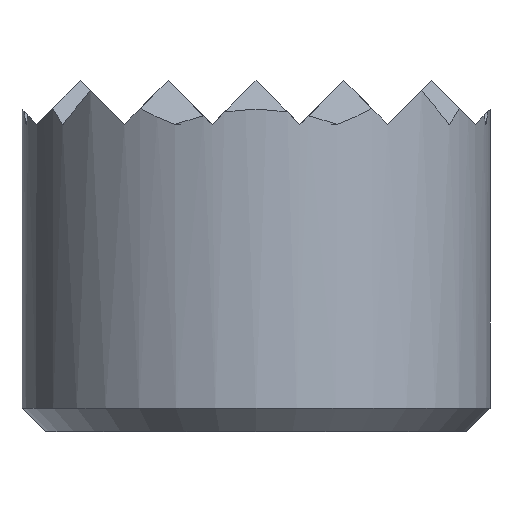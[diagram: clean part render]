
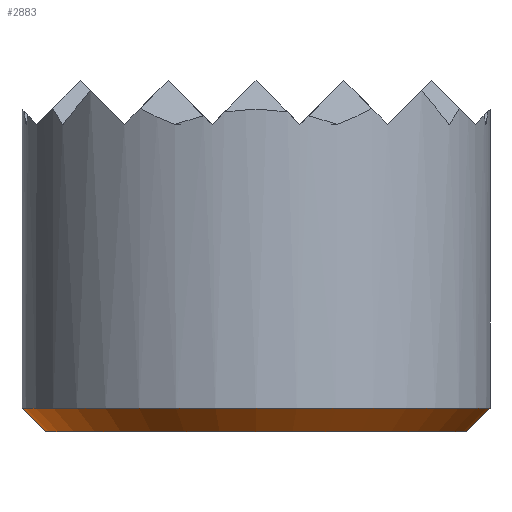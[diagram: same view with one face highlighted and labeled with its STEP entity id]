
A CAD part, front view. The second image highlights one B-rep face of the part: STEP entity #2883.
In plain terms, the highlighted conical face has half-angle 45 degrees and reference radius 8 mm.
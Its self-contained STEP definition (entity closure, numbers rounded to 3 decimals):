
#88 = FACE_OUTER_BOUND ( 'NONE', #2613, .T. ) ;
#106 = DIRECTION ( 'NONE',  ( 0., 0., 1. ) ) ;
#165 = VERTEX_POINT ( 'NONE', #2665 ) ;
#237 = VECTOR ( 'NONE', #452, 1000. ) ;
#249 = DIRECTION ( 'NONE',  ( 0., 0., 1. ) ) ;
#302 = CARTESIAN_POINT ( 'NONE',  ( 0., 0., 0. ) ) ;
#340 = AXIS2_PLACEMENT_3D ( 'NONE', #302, #525, #2857 ) ;
#452 = DIRECTION ( 'NONE',  ( -0.707, 0., 0.707 ) ) ;
#454 = AXIS2_PLACEMENT_3D ( 'NONE', #2016, #106, #1274 ) ;
#525 = DIRECTION ( 'NONE',  ( 0., 0., -1. ) ) ;
#660 = VERTEX_POINT ( 'NONE', #2563 ) ;
#696 = CIRCLE ( 'NONE', #340, 7.2 ) ;
#741 = CARTESIAN_POINT ( 'NONE',  ( 7.2, 0., 0. ) ) ;
#949 = AXIS2_PLACEMENT_3D ( 'NONE', #1715, #249, #1943 ) ;
#1274 = DIRECTION ( 'NONE',  ( 1., 0., 0. ) ) ;
#1386 = CARTESIAN_POINT ( 'NONE',  ( 8., 0., 0.8 ) ) ;
#1621 = EDGE_CURVE ( 'NONE', #660, #2814, #2291, .T. ) ;
#1652 = ORIENTED_EDGE ( 'NONE', *, *, #1621, .F. ) ;
#1664 = ORIENTED_EDGE ( 'NONE', *, *, #1922, .T. ) ;
#1715 = CARTESIAN_POINT ( 'NONE',  ( 0., 0., 0.8 ) ) ;
#1730 = ORIENTED_EDGE ( 'NONE', *, *, #2376, .F. ) ;
#1891 = VERTEX_POINT ( 'NONE', #741 ) ;
#1922 = EDGE_CURVE ( 'NONE', #1891, #2814, #2372, .T. ) ;
#1928 = VECTOR ( 'NONE', #2393, 1000. ) ;
#1943 = DIRECTION ( 'NONE',  ( 1., 0., 0. ) ) ;
#2016 = CARTESIAN_POINT ( 'NONE',  ( 0., 0., 0.8 ) ) ;
#2145 = CARTESIAN_POINT ( 'NONE',  ( -8., 0., 0.8 ) ) ;
#2270 = EDGE_CURVE ( 'NONE', #165, #660, #2845, .T. ) ;
#2291 = CIRCLE ( 'NONE', #949, 8. ) ;
#2372 = LINE ( 'NONE', #1386, #1928 ) ;
#2376 = EDGE_CURVE ( 'NONE', #1891, #165, #696, .T. ) ;
#2393 = DIRECTION ( 'NONE',  ( 0.707, 0., 0.707 ) ) ;
#2498 = ORIENTED_EDGE ( 'NONE', *, *, #2270, .F. ) ;
#2563 = CARTESIAN_POINT ( 'NONE',  ( -8., 0., 0.8 ) ) ;
#2613 = EDGE_LOOP ( 'NONE', ( #2498, #1730, #1664, #1652 ) ) ;
#2634 = CONICAL_SURFACE ( 'NONE', #454, 8., 0.785 ) ;
#2665 = CARTESIAN_POINT ( 'NONE',  ( -7.2, 0., 0. ) ) ;
#2814 = VERTEX_POINT ( 'NONE', #2958 ) ;
#2845 = LINE ( 'NONE', #2145, #237 ) ;
#2857 = DIRECTION ( 'NONE',  ( 1., 0., 0. ) ) ;
#2883 = ADVANCED_FACE ( 'NONE', ( #88 ), #2634, .T. ) ;
#2958 = CARTESIAN_POINT ( 'NONE',  ( 8., 0., 0.8 ) ) ;
